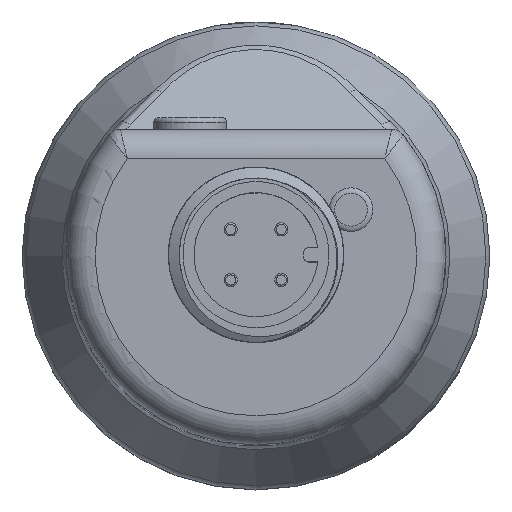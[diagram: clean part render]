
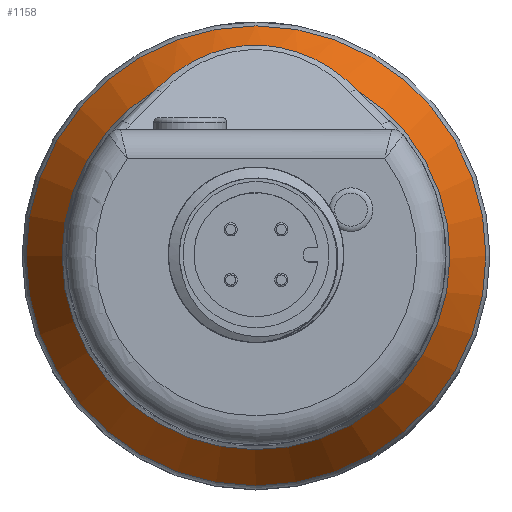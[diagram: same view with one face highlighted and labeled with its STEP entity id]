
A CAD part, top view. The second image highlights one B-rep face of the part: STEP entity #1158.
In plain terms, the highlighted conical face has half-angle 30 degrees and reference radius 13 mm.
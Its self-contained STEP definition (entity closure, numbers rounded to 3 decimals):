
#55=CONICAL_SURFACE('',#4366,13.,30.);
#136=B_SPLINE_CURVE_WITH_KNOTS('',3,(#7913,#7914,#7915,#7916,#7917,#7918),
 .UNSPECIFIED.,.F.,.F.,(4,2,4),(0.,0.5,1.),.UNSPECIFIED.);
#906=FACE_BOUND('',#1779,.T.);
#907=FACE_BOUND('',#1780,.T.);
#1158=ADVANCED_FACE('',(#906,#907),#55,.T.);
#1779=EDGE_LOOP('',(#2479,#2480));
#1780=EDGE_LOOP('',(#2481));
#2479=ORIENTED_EDGE('',*,*,#3454,.T.);
#2480=ORIENTED_EDGE('',*,*,#3666,.T.);
#2481=ORIENTED_EDGE('',*,*,#3667,.T.);
#3078=VERTEX_POINT('',#5877);
#3079=VERTEX_POINT('',#5878);
#3219=VERTEX_POINT('',#7920);
#3454=EDGE_CURVE('',#3078,#3079,#4002,.T.);
#3666=EDGE_CURVE('',#3079,#3078,#136,.T.);
#3667=EDGE_CURVE('',#3219,#3219,#4054,.T.);
#4002=CIRCLE('',#4220,13.268);
#4054=CIRCLE('',#4365,15.732);
#4220=AXIS2_PLACEMENT_3D('',#5876,#4753,#4754);
#4365=AXIS2_PLACEMENT_3D('',#7919,#5142,#5143);
#4366=AXIS2_PLACEMENT_3D('',#7921,#5144,#5145);
#4753=DIRECTION('',(0.,0.,-1.));
#4754=DIRECTION('',(1.,0.,0.));
#5142=DIRECTION('',(0.,0.,1.));
#5143=DIRECTION('',(-1.,0.,0.));
#5144=DIRECTION('',(0.,0.,-1.));
#5145=DIRECTION('',(-1.,0.,0.));
#5876=CARTESIAN_POINT('',(0.,0.,14.836));
#5877=CARTESIAN_POINT('',(6.871,11.351,14.836));
#5878=CARTESIAN_POINT('',(-6.871,11.351,14.836));
#7913=CARTESIAN_POINT('',(-6.871,11.351,14.836));
#7914=CARTESIAN_POINT('',(-4.963,13.397,13.515));
#7915=CARTESIAN_POINT('',(-2.317,14.41,12.854));
#7916=CARTESIAN_POINT('',(2.291,14.417,12.849));
#7917=CARTESIAN_POINT('',(4.956,13.404,13.511));
#7918=CARTESIAN_POINT('',(6.871,11.351,14.836));
#7919=CARTESIAN_POINT('',(0.,0.,10.568));
#7920=CARTESIAN_POINT('',(-15.732,0.,10.568));
#7921=CARTESIAN_POINT('',(0.,0.,15.3));
